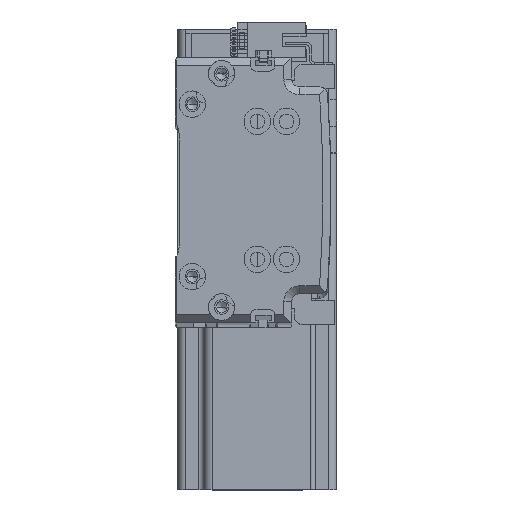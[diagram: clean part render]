
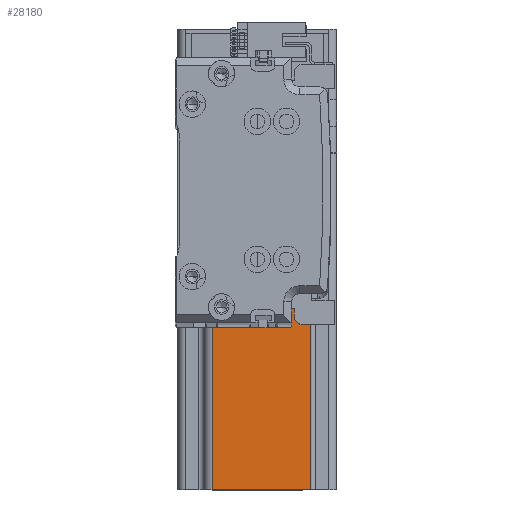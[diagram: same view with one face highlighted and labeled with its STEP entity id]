
A CAD part, top view. The second image highlights one B-rep face of the part: STEP entity #28180.
In plain terms, the highlighted planar face has unit normal (0, 0, 1) as drawn and (-1, 0, 0) by its records, which use the part's own axes.
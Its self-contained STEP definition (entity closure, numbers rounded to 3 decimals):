
#11 = CARTESIAN_POINT ( 'NONE',  ( -30., -27., 0. ) ) ;
#77 = LINE ( 'NONE', #28486, #31607 ) ;
#1113 = VERTEX_POINT ( 'NONE', #14894 ) ;
#2202 = CARTESIAN_POINT ( 'NONE',  ( -30., -30., 0. ) ) ;
#2884 = ORIENTED_EDGE ( 'NONE', *, *, #29040, .T. ) ;
#4870 = ORIENTED_EDGE ( 'NONE', *, *, #29497, .F. ) ;
#5511 = VERTEX_POINT ( 'NONE', #44952 ) ;
#6316 = DIRECTION ( 'NONE',  ( 0., -1., 0. ) ) ;
#6338 = EDGE_CURVE ( 'NONE', #24292, #20406, #17957, .T. ) ;
#6785 = DIRECTION ( 'NONE',  ( 0., 0., -1. ) ) ;
#6995 = ORIENTED_EDGE ( 'NONE', *, *, #44003, .T. ) ;
#7241 = FACE_OUTER_BOUND ( 'NONE', #30882, .T. ) ;
#9350 = CARTESIAN_POINT ( 'NONE',  ( -30., -17., 10. ) ) ;
#10535 = EDGE_CURVE ( 'NONE', #19655, #1113, #45247, .T. ) ;
#10552 = LINE ( 'NONE', #2202, #40822 ) ;
#11876 = DIRECTION ( 'NONE',  ( 0., -1., 0. ) ) ;
#12815 = CARTESIAN_POINT ( 'NONE',  ( -30., -30., 10. ) ) ;
#13443 = EDGE_CURVE ( 'NONE', #31255, #20406, #14682, .T. ) ;
#14374 = VECTOR ( 'NONE', #37275, 1000. ) ;
#14682 = LINE ( 'NONE', #12815, #25652 ) ;
#14894 = CARTESIAN_POINT ( 'NONE',  ( -30., 20., 137. ) ) ;
#16074 = DIRECTION ( 'NONE',  ( 0., 0., 1. ) ) ;
#17425 = PLANE ( 'NONE',  #43127 ) ;
#17957 = LINE ( 'NONE', #32365, #28898 ) ;
#18178 = EDGE_CURVE ( 'NONE', #45478, #24292, #10552, .T. ) ;
#19655 = VERTEX_POINT ( 'NONE', #44619 ) ;
#20369 = ORIENTED_EDGE ( 'NONE', *, *, #6338, .T. ) ;
#20406 = VERTEX_POINT ( 'NONE', #33564 ) ;
#21712 = CARTESIAN_POINT ( 'NONE',  ( -30., -30., 137. ) ) ;
#23106 = CARTESIAN_POINT ( 'NONE',  ( -30., 27., 137. ) ) ;
#24283 = CARTESIAN_POINT ( 'NONE',  ( -30., -30., 137. ) ) ;
#24292 = VERTEX_POINT ( 'NONE', #11 ) ;
#24674 = ORIENTED_EDGE ( 'NONE', *, *, #10535, .F. ) ;
#25202 = CARTESIAN_POINT ( 'NONE',  ( -30., 30., 10. ) ) ;
#25652 = VECTOR ( 'NONE', #50032, 1000. ) ;
#25888 = DIRECTION ( 'NONE',  ( 0., 0., -1. ) ) ;
#26346 = CARTESIAN_POINT ( 'NONE',  ( -30., 27., 0. ) ) ;
#28180 = ADVANCED_FACE ( 'NONE', ( #7241 ), #17425, .F. ) ;
#28486 = CARTESIAN_POINT ( 'NONE',  ( -30., -17., 137. ) ) ;
#28898 = VECTOR ( 'NONE', #44966, 1000. ) ;
#28917 = LINE ( 'NONE', #24283, #45055 ) ;
#29040 = EDGE_CURVE ( 'NONE', #31255, #53315, #77, .T. ) ;
#29497 = EDGE_CURVE ( 'NONE', #1113, #53315, #28917, .T. ) ;
#30882 = EDGE_LOOP ( 'NONE', ( #40395, #2884, #4870, #24674, #48886, #6995, #51328, #20369 ) ) ;
#31145 = CARTESIAN_POINT ( 'NONE',  ( -30., 20., 10. ) ) ;
#31255 = VERTEX_POINT ( 'NONE', #9350 ) ;
#31607 = VECTOR ( 'NONE', #16074, 1000. ) ;
#32365 = CARTESIAN_POINT ( 'NONE',  ( -30., -27., 137. ) ) ;
#33564 = CARTESIAN_POINT ( 'NONE',  ( -30., -27., 10. ) ) ;
#34296 = VECTOR ( 'NONE', #43559, 1000. ) ;
#36358 = CARTESIAN_POINT ( 'NONE',  ( -30., -17., 137. ) ) ;
#36560 = VECTOR ( 'NONE', #6785, 1000. ) ;
#37275 = DIRECTION ( 'NONE',  ( 0., 1., 0. ) ) ;
#38851 = LINE ( 'NONE', #25202, #14374 ) ;
#40395 = ORIENTED_EDGE ( 'NONE', *, *, #13443, .F. ) ;
#40822 = VECTOR ( 'NONE', #6316, 1000. ) ;
#43127 = AXIS2_PLACEMENT_3D ( 'NONE', #21712, #50530, #25888 ) ;
#43559 = DIRECTION ( 'NONE',  ( 0., 0., 1. ) ) ;
#44003 = EDGE_CURVE ( 'NONE', #5511, #45478, #47507, .T. ) ;
#44619 = CARTESIAN_POINT ( 'NONE',  ( -30., 20., 10. ) ) ;
#44952 = CARTESIAN_POINT ( 'NONE',  ( -30., 27., 10. ) ) ;
#44966 = DIRECTION ( 'NONE',  ( 0., 0., 1. ) ) ;
#45055 = VECTOR ( 'NONE', #11876, 1000. ) ;
#45247 = LINE ( 'NONE', #31145, #34296 ) ;
#45478 = VERTEX_POINT ( 'NONE', #26346 ) ;
#47507 = LINE ( 'NONE', #23106, #36560 ) ;
#47694 = EDGE_CURVE ( 'NONE', #19655, #5511, #38851, .T. ) ;
#48886 = ORIENTED_EDGE ( 'NONE', *, *, #47694, .T. ) ;
#50032 = DIRECTION ( 'NONE',  ( 0., -1., 0. ) ) ;
#50530 = DIRECTION ( 'NONE',  ( 1., 0., 0. ) ) ;
#51328 = ORIENTED_EDGE ( 'NONE', *, *, #18178, .T. ) ;
#53315 = VERTEX_POINT ( 'NONE', #36358 ) ;
